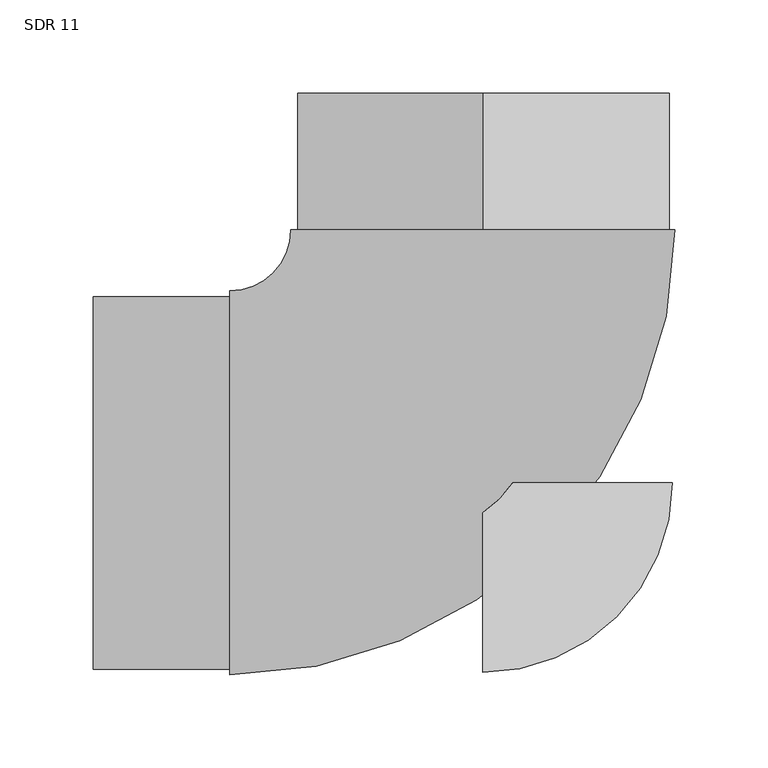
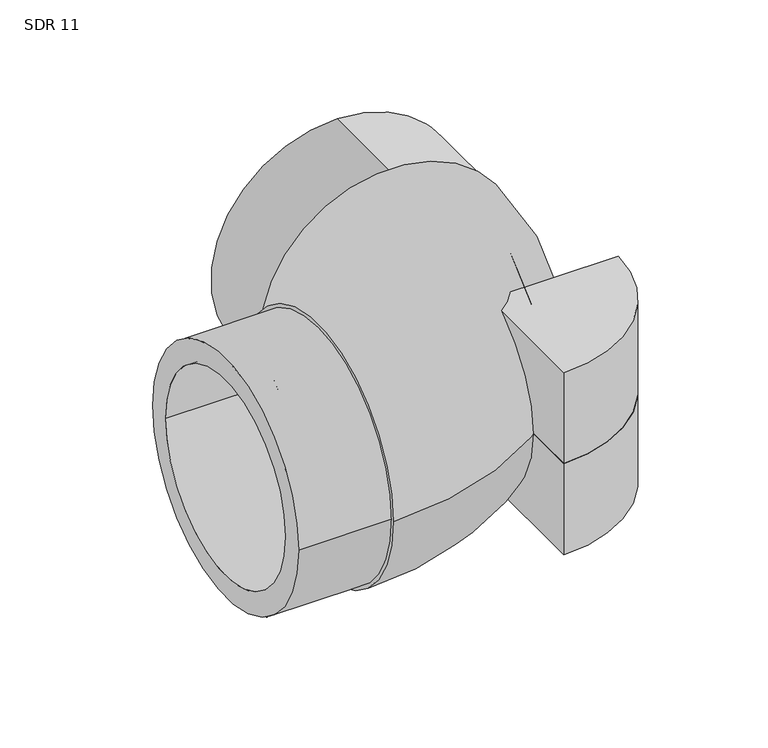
"""IFC4 building model written with IfcOpenShell, lengths in millimetres: pipe fitting geometry, Aquatherm - Elbow BW Molded : SDR 11."""

from ifc_helpers import new_model, si_unit, point, frame, frame_2d, origin, origin_with_axes, origin_2d, place, context, project, spatial, polyline, circle_curve, ellipse_curve, trimmed, segment, composite_curve, outline, extrude, source, transform, mapped, element, save
from ifc_brep_helpers import plane_surface, revolved_surface, advanced_brep


def sdr_11_6eb5d83a(model_context):
    return source(origin(), model_context, "Body", "SolidModel", [
        extrude(outline(composite_curve([segment(polyline([(0.0, -101.6), (0.0, 0.0), (101.5999999, 0.0049065)]), True, "CONTINUOUS"), segment(trimmed(circle_curve(origin_2d(), 101.6), [point((101.5999999, 0.0049065))], [point((0.0, -101.6))], False, "CARTESIAN"), True, "CONTINUOUS")], self_intersect=False)), frame((0.0, 0.0, -76.2), z_axis=(0.0, 0.0, 1.0), x_axis=(1.0, 0.0, 0.0)), (0.0, 0.0, 1.0), 76.2),
        extrude(outline(composite_curve([segment(trimmed(circle_curve(origin_2d(), 101.6), [point((101.5999999, 0.0049065))], [point((0.0, -101.6))], False, "CARTESIAN"), True, "CONTINUOUS"), segment(polyline([(0.0, -101.6), (0.0, 0.0), (101.5999999, 0.0049065)]), True, "CONTINUOUS")], self_intersect=False)), origin_with_axes(), (0.0, 0.0, 1.0), 76.2),
        extrude(outline(composite_curve([segment(trimmed(circle_curve(frame_2d((0.0, -99.949)), 99.949), [point((0.0, -199.898))], [point((0.0, 0.0))], False, "CARTESIAN"), True, "CONTINUOUS"), segment(trimmed(circle_curve(frame_2d((0.0, -99.949)), 99.949), [point((0.0, 0.0))], [point((0.0, -199.898))], False, "CARTESIAN"), True, "CONTINUOUS")], self_intersect=False), holes=[composite_curve([segment(trimmed(circle_curve(frame_2d((0.0, -99.949)), 81.7764545), [point((0.0, -181.7254545))], [point((0.0, -18.1725455))], True, "CARTESIAN"), True, "CONTINUOUS"), segment(trimmed(circle_curve(frame_2d((0.0, -99.949)), 81.7764545), [point((0.0, -18.1725455))], [point((0.0, -181.7254545))], True, "CARTESIAN"), True, "CONTINUOUS")], self_intersect=False)]), frame((-0.0065618, 135.8772998, 99.949), z_axis=(-4.8292277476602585e-05, 0.999999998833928, 0.0), x_axis=(-0.999999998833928, -4.8292277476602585e-05, 0.0)), (0.0, 0.0, 1.0), 73.1647),
        extrude(outline(composite_curve([segment(trimmed(circle_curve(frame_2d((-0.1496481, 0.0)), 99.949), [point((99.7993519, 0.0))], [point((-100.0986481, 0.0))], False, "CARTESIAN"), True, "CONTINUOUS"), segment(trimmed(circle_curve(frame_2d((-0.1496481, 0.0)), 99.949), [point((-100.0986481, 0.0))], [point((99.7993519, 0.0))], False, "CARTESIAN"), True, "CONTINUOUS")], self_intersect=False), holes=[composite_curve([segment(trimmed(circle_curve(origin_2d(), 81.7764545), [point((81.7764545, 0.0))], [point((-81.7764545, 0.0))], True, "CARTESIAN"), True, "CONTINUOUS"), segment(trimmed(circle_curve(origin_2d(), 81.7764545), [point((-81.7764545, 0.0))], [point((81.7764545, 0.0))], True, "CARTESIAN"), True, "CONTINUOUS")], self_intersect=False)]), frame((-209.042, 0.0, 0.0), z_axis=(1.0, 0.0, 0.0), x_axis=(0.0, 1.0, 0.0)), (0.0, 0.0, 1.0), 73.1647),
        advanced_brep(
        [(-135.8773, -102.94747, 0.0), (-135.8773, 102.94747, 0.0), (-135.8773, -81.7764545, 0.0), (-135.8773, 81.7764545, 0.0), (102.9409081, 135.8822714, 0.0), (-102.9540317, 135.8723283, 0.0), (81.7698926, 135.881249, 0.0), (-81.7830163, 135.8733507, 0.0)],
        [
            (0, 1, circle_curve(frame((-135.8773, 0.0, 0.0), z_axis=(-1.0, 0.0, 0.0), x_axis=(0.0, 1.0, 0.0)), 102.94747)),
            (1, 0, circle_curve(frame((-135.8773, 0.0, 0.0), z_axis=(-1.0, 0.0, 0.0), x_axis=(0.0, 1.0, 0.0)), 102.94747)),
            (2, 3, circle_curve(frame((-135.8773, 0.0, 0.0), z_axis=(1.0, 0.0, 0.0), x_axis=(0.0, 1.0, 0.0)), 81.7764545)),
            (3, 2, circle_curve(frame((-135.8773, 0.0, 0.0), z_axis=(1.0, 0.0, 0.0), x_axis=(0.0, 1.0, 0.0)), 81.7764545)),
            (4, 5, circle_curve(frame((-0.0065618, 135.8772998, 0.0), z_axis=(-4.829227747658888e-05, 0.999999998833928, 0.0), x_axis=(-0.999999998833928, -4.829227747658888e-05, 0.0)), 102.94747)),
            (5, 4, circle_curve(frame((-0.0065618, 135.8772998, 0.0), z_axis=(-4.829227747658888e-05, 0.999999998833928, 0.0), x_axis=(-0.999999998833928, -4.829227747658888e-05, 0.0)), 102.94747)),
            (6, 7, circle_curve(frame((-0.0065618, 135.8772998, 0.0), z_axis=(4.829227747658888e-05, -0.999999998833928, 0.0), x_axis=(-0.999999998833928, -4.829227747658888e-05, 0.0)), 81.7764545)),
            (7, 6, circle_curve(frame((-0.0065618, 135.8772998, 0.0), z_axis=(4.829227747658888e-05, -0.999999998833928, 0.0), x_axis=(-0.999999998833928, -4.829227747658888e-05, 0.0)), 81.7764545)),
            (5, 1, circle_curve(frame((-135.8773, 135.8707383, 0.0), z_axis=(0.0, 0.0, -1.0), x_axis=(0.0, -1.0, 0.0)), 32.9232683)),
            (0, 4, circle_curve(frame((-135.8773, 135.8707383, 0.0), z_axis=(0.0, 0.0, 1.0), x_axis=(0.0, -1.0, 0.0)), 238.8182083)),
            (7, 3, circle_curve(frame((-135.8773, 135.8707383, 0.0), z_axis=(0.0, 0.0, -1.0), x_axis=(0.0, -1.0, 0.0)), 54.0942838)),
            (2, 6, circle_curve(frame((-135.8773, 135.8707383, 0.0), z_axis=(0.0, 0.0, 1.0), x_axis=(0.0, -1.0, 0.0)), 217.6471929)),
        ],
        [
            plane_surface(frame((-135.8773, 0.0, 0.0), z_axis=(-1.0, 0.0, 0.0), x_axis=(0.0, 0.0, 1.0))),
            plane_surface(frame((-0.0065618, 135.8772998, 0.0), z_axis=(-4.829227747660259e-05, 0.999999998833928, 0.0), x_axis=(0.0, 0.0, 1.0))),
            revolved_surface(trimmed(ellipse_curve(frame((-135.8773, 0.0, 0.0), z_axis=(-1.0, 0.0, 0.0), x_axis=(0.0, 1.0, 0.0)), 102.94747, 102.94747), [point((-135.8773, -102.94747, 0.0))], [point((-135.8773, 102.94747, 0.0))], True, "CARTESIAN"), (-135.8773, 135.8707383, 0.0), (0.0, 0.0, 1.0)),
            revolved_surface(trimmed(ellipse_curve(frame((-135.8773, 0.0, 0.0), z_axis=(-1.0, 0.0, 0.0), x_axis=(0.0, 1.0, 0.0)), 102.94747, 102.94747), [point((-135.8773, 102.94747, 0.0))], [point((-135.8773, -102.94747, 0.0))], True, "CARTESIAN"), (-135.8773, 135.8707383, 0.0), (0.0, 0.0, 1.0)),
            revolved_surface(trimmed(ellipse_curve(frame((-135.8773, 0.0, 0.0), z_axis=(1.0, 0.0, 0.0), x_axis=(0.0, 1.0, 0.0)), 81.7764545, 81.7764545), [point((-135.8773, -81.7764545, 0.0))], [point((-135.8773, 81.7764545, 0.0))], True, "CARTESIAN"), (-135.8773, 135.8707383, 0.0), (0.0, 0.0, 1.0)),
            revolved_surface(trimmed(ellipse_curve(frame((-135.8773, 0.0, 0.0), z_axis=(1.0, 0.0, 0.0), x_axis=(0.0, 1.0, 0.0)), 81.7764545, 81.7764545), [point((-135.8773, 81.7764545, 0.0))], [point((-135.8773, -81.7764545, 0.0))], True, "CARTESIAN"), (-135.8773, 135.8707383, 0.0), (0.0, 0.0, 1.0)),
        ],
        [
            (0, [[1, 2], [3, 4]]),
            (1, [[5, 6], [7, 8]]),
            (2, [[9, -1, 10, -6]]),
            (3, [[-10, -2, -9, -5]]),
            (4, [[11, -3, 12, -8]]),
            (5, [[-12, -4, -11, -7]]),
        ],
    ),
    ])


if __name__ == "__main__":
    model = new_model("IFC4")
    model_context = context("Model", 3, world=origin())
    ifc_project = project(units=[si_unit("LENGTHUNIT", "METRE", prefix="MILLI")], contexts=[model_context])
    site = spatial("IfcSite", under=ifc_project)
    building = spatial("IfcBuilding", under=site)
    placement = place(None, origin())
    sdr_11_shape = sdr_11_6eb5d83a(model_context)
    element("IfcPipeFitting", 1, ObjectType="Aquatherm - Elbow BW Molded : SDR 11", at=placement, inside=building, context=model_context, shape_type="MappedRepresentation", body=[
        mapped(sdr_11_shape, transform((0.0, 0.0, 0.0), x_axis=(1.0, 0.0, 0.0), y_axis=(0.0, 1.0, 0.0), z_axis=(0.0, 0.0, 1.0))),
    ])
    save(model, "model.ifc")
